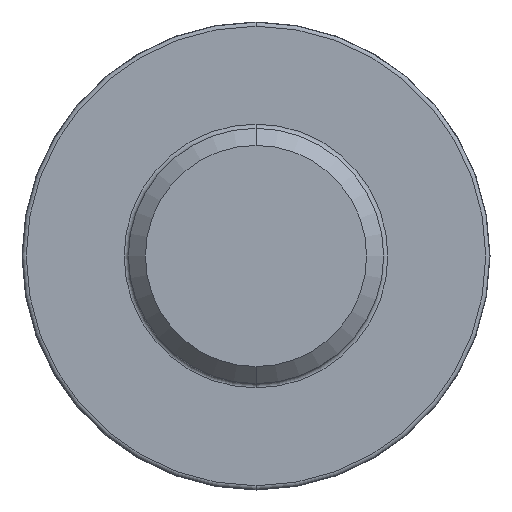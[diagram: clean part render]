
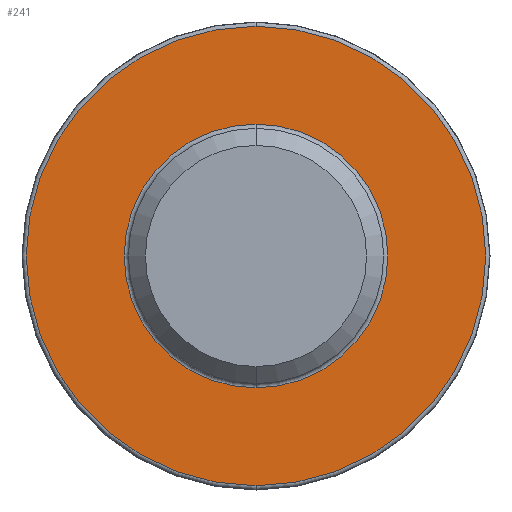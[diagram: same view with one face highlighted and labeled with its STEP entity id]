
A CAD part, front view. The second image highlights one B-rep face of the part: STEP entity #241.
In plain terms, the highlighted planar face has unit normal (0, -1, 0).
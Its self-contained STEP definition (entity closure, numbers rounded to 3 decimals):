
#14 = CARTESIAN_POINT ( 'NONE',  ( 0., -1.6, 0. ) ) ;
#23 = ORIENTED_EDGE ( 'NONE', *, *, #844, .T. ) ;
#34 = CIRCLE ( 'NONE', #233, 2.7 ) ;
#74 = CARTESIAN_POINT ( 'NONE',  ( 0., -1.6, 2.7 ) ) ;
#89 = DIRECTION ( 'NONE',  ( 0., 0., 1. ) ) ;
#91 = ORIENTED_EDGE ( 'NONE', *, *, #120, .T. ) ;
#116 = DIRECTION ( 'NONE',  ( 0., 0., 1. ) ) ;
#120 = EDGE_CURVE ( 'NONE', #603, #188, #529, .T. ) ;
#133 = FACE_BOUND ( 'NONE', #426, .T. ) ;
#142 = CARTESIAN_POINT ( 'NONE',  ( 0., -1.6, 1.55 ) ) ;
#188 = VERTEX_POINT ( 'NONE', #74 ) ;
#233 = AXIS2_PLACEMENT_3D ( 'NONE', #423, #625, #89 ) ;
#241 = ADVANCED_FACE ( 'NONE', ( #133, #532 ), #740, .F. ) ;
#242 = ORIENTED_EDGE ( 'NONE', *, *, #697, .T. ) ;
#245 = AXIS2_PLACEMENT_3D ( 'NONE', #837, #434, #427 ) ;
#258 = CARTESIAN_POINT ( 'NONE',  ( 0., -1.6, -1.55 ) ) ;
#260 = CIRCLE ( 'NONE', #245, 1.55 ) ;
#281 = DIRECTION ( 'NONE',  ( 0., 1., 0. ) ) ;
#294 = AXIS2_PLACEMENT_3D ( 'NONE', #342, #673, #817 ) ;
#322 = CARTESIAN_POINT ( 'NONE',  ( 0., -1.6, 0. ) ) ;
#342 = CARTESIAN_POINT ( 'NONE',  ( 1.5, -1.6, 0. ) ) ;
#423 = CARTESIAN_POINT ( 'NONE',  ( 0., -1.6, 0. ) ) ;
#426 = EDGE_LOOP ( 'NONE', ( #692, #242 ) ) ;
#427 = DIRECTION ( 'NONE',  ( 0., 0., 1. ) ) ;
#430 = AXIS2_PLACEMENT_3D ( 'NONE', #14, #281, #497 ) ;
#434 = DIRECTION ( 'NONE',  ( 0., 1., 0. ) ) ;
#497 = DIRECTION ( 'NONE',  ( 0., 0., 1. ) ) ;
#512 = EDGE_LOOP ( 'NONE', ( #23, #91 ) ) ;
#529 = CIRCLE ( 'NONE', #558, 2.7 ) ;
#532 = FACE_OUTER_BOUND ( 'NONE', #512, .T. ) ;
#555 = VERTEX_POINT ( 'NONE', #258 ) ;
#558 = AXIS2_PLACEMENT_3D ( 'NONE', #322, #709, #116 ) ;
#603 = VERTEX_POINT ( 'NONE', #747 ) ;
#625 = DIRECTION ( 'NONE',  ( 0., -1., 0. ) ) ;
#650 = VERTEX_POINT ( 'NONE', #142 ) ;
#673 = DIRECTION ( 'NONE',  ( 0., 1., 0. ) ) ;
#692 = ORIENTED_EDGE ( 'NONE', *, *, #707, .T. ) ;
#697 = EDGE_CURVE ( 'NONE', #555, #650, #840, .T. ) ;
#707 = EDGE_CURVE ( 'NONE', #650, #555, #260, .T. ) ;
#709 = DIRECTION ( 'NONE',  ( 0., -1., 0. ) ) ;
#740 = PLANE ( 'NONE',  #294 ) ;
#747 = CARTESIAN_POINT ( 'NONE',  ( 0., -1.6, -2.7 ) ) ;
#817 = DIRECTION ( 'NONE',  ( 0., 0., 1. ) ) ;
#837 = CARTESIAN_POINT ( 'NONE',  ( 0., -1.6, 0. ) ) ;
#840 = CIRCLE ( 'NONE', #430, 1.55 ) ;
#844 = EDGE_CURVE ( 'NONE', #188, #603, #34, .T. ) ;
